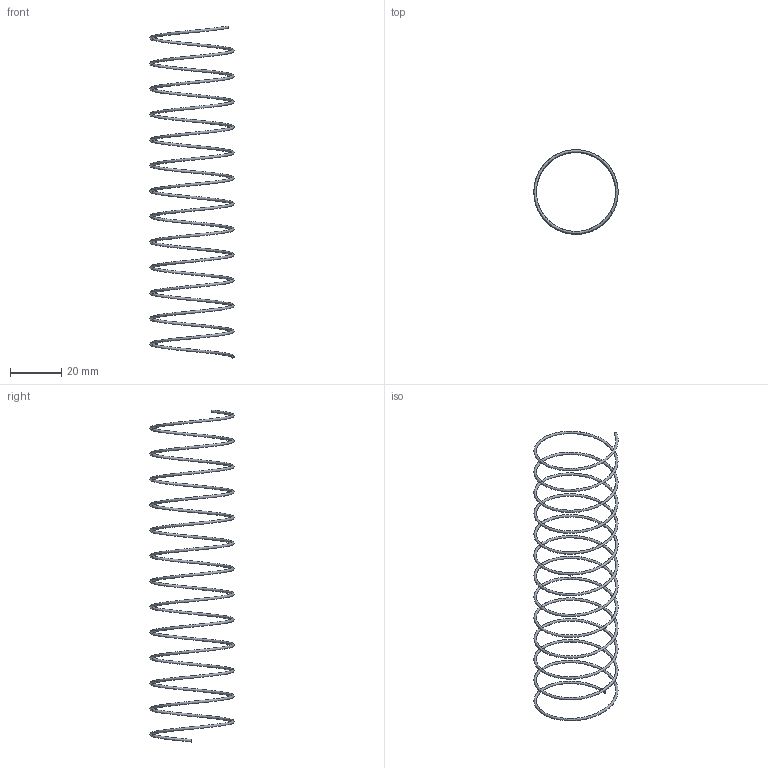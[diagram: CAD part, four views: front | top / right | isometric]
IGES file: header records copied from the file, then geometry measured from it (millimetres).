
Start section: Missler Software BP 521, 31674 Labege Cedex, France Tel   : +33 (0)5 61 00 03 00 Fax   : +33 (0)5 61 00 03 03 Email : sup.topsolid@topsolid.com
Global section: file name: D:\Cuma\25 06 2009\D60.01\D60.01_32\D60.01_32130.igs; native system: TopSolid v605250 Missler Software; preprocessor: IGES preprocessor v100000; date: 030203.162223; units: millimetre
Bounding box: 33 x 33 x 130.16 mm (x, y, z)
Surface area: 4071.2 mm2 (no closed solid volume)
Topology: 0 solids, 0 shells, 3 faces, 27 edges, 26 vertices
Faces by surface type: bspline 3
